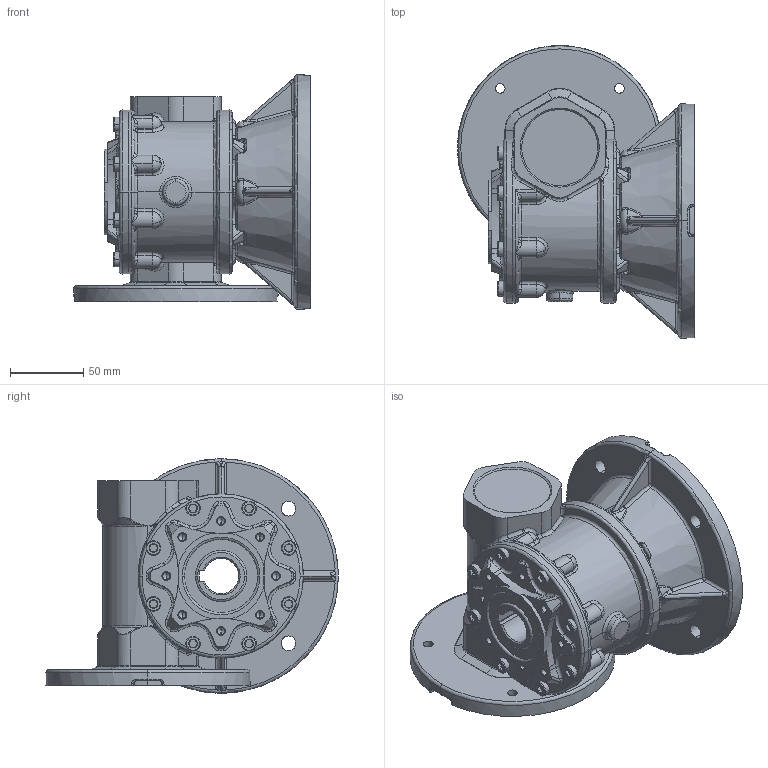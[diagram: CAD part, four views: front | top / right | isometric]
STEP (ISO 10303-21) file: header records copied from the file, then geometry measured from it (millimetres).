
FILE_DESCRIPTION (( 'STEP AP214' ), '1' );
FILE_NAME ('mrt50a-ffl-63-115.step', '2011-10-12T06:09:16', ( '' ), ( '' ), 'SwSTEP 2.0', 'SolidWorks 2010', '' );
FILE_SCHEMA (( 'AUTOMOTIVE_DESIGN' ));
Length unit declared in the file: millimetre
Products named in the file (6): mrt50a-ffl-63-115; Sroub DIN 6912_M5x16; pøíruba 115 d52 MRT50a_priruba 85-MRT50; MRT50A_MRT50A-AP63; Sroub DIN 6912_M6x20; Adaptér FF50
Assembly tree (13 placements, depth 2):
  mrt50a-ffl-63-115
    Sroub DIN 6912_M6x20  x4
    Sroub DIN 6912_M5x16  x6
    Adaptér FF50
    MRT50A_MRT50A-AP63
    pøíruba 115 d52 MRT50a_priruba 85-MRT50
Bounding box: 161.84 x 199.76 x 160 mm (x, y, z)
Volume: 1218903.5 mm3; surface area: 203072.2 mm2
Topology: 13 solids, 15 shells, 2147 faces, 5071 edges, 2838 vertices
Faces by surface type: torus 460, cylinder 454, bspline 447, cone 390, plane 346, sphere 50
Entity records: 123226 total; most frequent: CARTESIAN_POINT 77886, ORIENTED_EDGE 8726, DIRECTION 8584, EDGE_CURVE 4363, AXIS2_PLACEMENT_3D 3842, VERTEX_POINT 2534, CIRCLE 2382, EDGE_LOOP 1981
